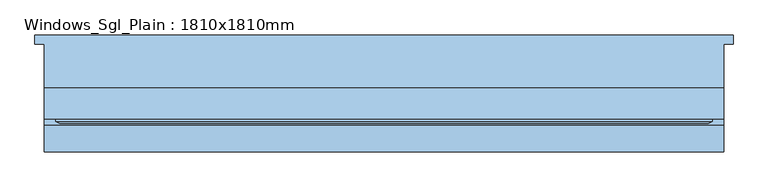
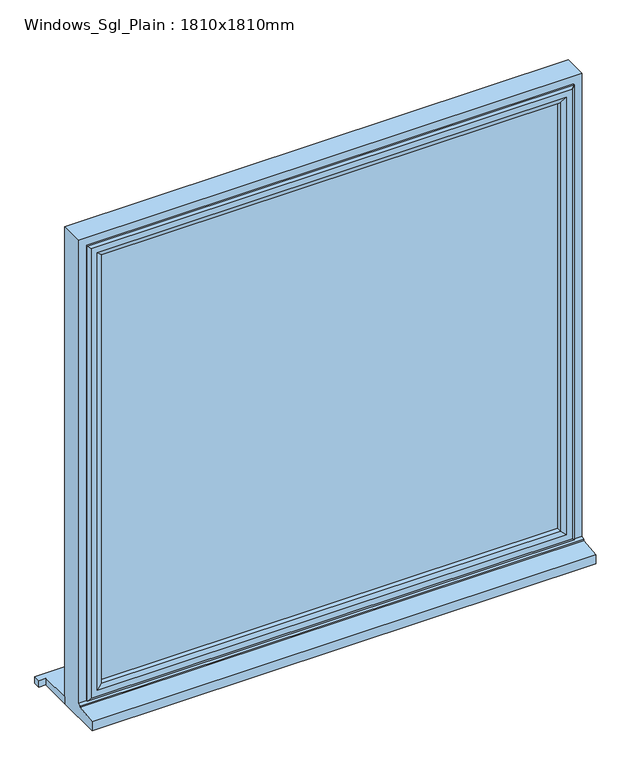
"""IFC4 building model written with IfcOpenShell, lengths in millimetres: window geometry, Windows_Sgl_Plain : 1810x1810mm."""

from ifc_helpers import new_model, si_unit, frame, origin, place, context, project, spatial, polyline, outline, extrude, faceted_brep, source, transform, mapped, element, save


def windows_sgl_plain_1810x1810mm_c88d1166(model_context):
    return source(origin(), model_context, "Body", "SolidModel", [
        extrude(outline(polyline([(-930.0, 141.5434322), (930.0, 141.5434322), (930.0, 116.5434322), (905.0, 116.5434322), (905.0, -0.4565678), (-905.0, -0.4565678), (-905.0, 116.5434322), (-930.0, 116.5434322), (-930.0, 141.5434322)])), frame((0.0, 0.0, 300.0), z_axis=(0.0, 0.0, 1.0), x_axis=(1.0, 0.0, 0.0)), (0.0, 0.0, 1.0), 25.0),
        faceted_brep([(-905.0, -0.4565678, 300.0), (-905.0, -0.4565678, 2110.0), (905.0, -0.4565678, 2110.0), (905.0, -0.4565678, 300.0), (-845.0, -0.4565678, 2050.0), (-845.0, -0.4565678, 375.0), (845.0, -0.4565678, 375.0), (845.0, -0.4565678, 2050.0), (-905.0, -170.9565678, 300.0), (-905.0, -170.9565678, 333.8088847), (-905.0, -98.4565678, 344.7449676), (-905.0, -98.4565678, 349.68767), (-905.0, -83.4565678, 351.0), (-905.0, -83.4565678, 2110.0), (905.0, -83.4565678, 351.0), (905.0, -83.4565678, 2110.0), (-865.0, -83.4565678, 2070.0), (865.0, -83.4565678, 2070.0), (865.0, -83.4565678, 363.0), (-865.0, -83.4565678, 363.0), (-865.0, -18.4565678, 363.0), (-865.0, -18.4565678, 2070.0), (865.0, -18.4565678, 363.0), (865.0, -18.4565678, 2070.0), (-845.0, -18.4565678, 2050.0), (845.0, -18.4565678, 2050.0), (845.0, -18.4565678, 375.0), (-845.0, -18.4565678, 375.0), (905.0, -98.4565678, 349.68767), (905.0, -98.4565678, 344.7449676), (905.0, -170.9565678, 333.8088847), (905.0, -170.9565678, 300.0)], [[[0, 1, 2, 3], [4, 5, 6, 7]], [[0, 8, 9, 10, 11, 12, 13, 1]], [[12, 14, 15, 13], [16, 17, 18, 19]], [[19, 20, 21, 16]], [[21, 20, 22, 23], [24, 25, 26, 27]], [[24, 27, 5, 4]], [[1, 13, 15, 2]], [[16, 21, 23, 17]], [[7, 25, 24, 4]], [[14, 28, 29, 30, 31, 3, 2, 15]], [[17, 23, 22, 18]], [[7, 6, 26, 25]], [[31, 8, 0, 3]], [[30, 9, 8, 31]], [[29, 10, 9, 30]], [[28, 11, 10, 29]], [[14, 12, 11, 28]], [[20, 19, 18, 22]], [[5, 27, 26, 6]]]),
        extrude(outline(polyline([(835.0, -47.4565678), (835.0, -71.4565678), (-835.0, -71.4565678), (-835.0, -47.4565678), (835.0, -47.4565678)])), frame((0.0, 0.0, 393.0), z_axis=(0.0, 0.0, 1.0), x_axis=(1.0, 0.0, 0.0)), (0.0, 0.0, 1.0), 1647.0),
        faceted_brep([(-875.0, -83.4565678, 2080.0), (-875.0, -83.4565678, 353.0), (-875.0, -89.2300705, 353.0), (-875.0, -89.2300705, 2080.0), (-865.0, -18.4565678, 2070.0), (-865.0, -18.4565678, 363.0), (-865.0, -83.4565678, 363.0), (-865.0, -83.4565678, 2070.0), (-825.0, -32.9494677, 2030.0), (-825.0, -32.9494677, 403.0), (-835.1480377, -18.4565678, 392.8519623), (-835.1480377, -18.4565678, 2040.1480377), (-825.0, -47.4565678, 2030.0), (-825.0, -47.4565678, 403.0), (-835.0, -71.4565678, 2040.0), (-835.0, -71.4565678, 393.0), (-835.0, -47.4565678, 393.0), (-835.0, -47.4565678, 2040.0), (-825.0, -89.2300705, 2030.0), (-825.0, -89.2300705, 403.0), (-825.0, -71.4565678, 403.0), (-825.0, -71.4565678, 2030.0), (-842.4457548, -95.0035732, 2047.4457548), (-842.4457548, -95.0035732, 385.5542452), (-864.2153903, -95.0035732, 363.7846097), (-864.2153903, -95.0035732, 2069.2153903), (875.0, -83.4565678, 353.0), (875.0, -89.2300705, 353.0), (865.0, -18.4565678, 363.0), (865.0, -83.4565678, 363.0), (825.0, -32.9494677, 403.0), (835.1480377, -18.4565678, 392.8519623), (825.0, -47.4565678, 403.0), (835.0, -71.4565678, 393.0), (835.0, -47.4565678, 393.0), (825.0, -89.2300705, 403.0), (825.0, -71.4565678, 403.0), (842.4457548, -95.0035732, 385.5542452), (864.2153903, -95.0035732, 363.7846097), (875.0, -83.4565678, 2080.0), (875.0, -89.2300705, 2080.0), (865.0, -18.4565678, 2070.0), (865.0, -83.4565678, 2070.0), (825.0, -32.9494677, 2030.0), (835.1480377, -18.4565678, 2040.1480377), (825.0, -47.4565678, 2030.0), (835.0, -71.4565678, 2040.0), (835.0, -47.4565678, 2040.0), (825.0, -89.2300705, 2030.0), (825.0, -71.4565678, 2030.0), (842.4457548, -95.0035732, 2047.4457548), (864.2153903, -95.0035732, 2069.2153903)], [[[0, 1, 2, 3]], [[4, 5, 6, 7]], [[8, 9, 10, 11]], [[12, 13, 9, 8]], [[14, 15, 16, 17]], [[18, 19, 20, 21]], [[22, 23, 19, 18]], [[3, 2, 24, 25]], [[1, 26, 27, 2]], [[5, 28, 29, 6]], [[9, 30, 31, 10]], [[13, 32, 30, 9]], [[15, 33, 34, 16]], [[19, 35, 36, 20]], [[23, 37, 35, 19]], [[2, 27, 38, 24]], [[26, 39, 40, 27]], [[28, 41, 42, 29]], [[30, 43, 44, 31]], [[32, 45, 43, 30]], [[33, 46, 47, 34]], [[35, 48, 49, 36]], [[37, 50, 48, 35]], [[27, 40, 51, 38]], [[39, 0, 3, 40]], [[1, 0, 39, 26], [7, 6, 29, 42]], [[41, 4, 7, 42]], [[5, 4, 41, 28], [11, 10, 31, 44]], [[43, 8, 11, 44]], [[45, 12, 8, 43]], [[17, 16, 34, 47], [13, 12, 45, 32]], [[46, 14, 17, 47]], [[15, 14, 46, 33], [21, 20, 36, 49]], [[48, 18, 21, 49]], [[50, 22, 18, 48]], [[25, 24, 38, 51], [23, 22, 50, 37]], [[40, 3, 25, 51]]]),
    ])


if __name__ == "__main__":
    model = new_model("IFC4")
    model_context = context("Model", 3, world=origin())
    ifc_project = project(units=[si_unit("LENGTHUNIT", "METRE", prefix="MILLI")], contexts=[model_context])
    site = spatial("IfcSite", under=ifc_project)
    building = spatial("IfcBuilding", under=site)
    placement = place(None, origin())
    windows_sgl_plain_1810x1810mm_shape = windows_sgl_plain_1810x1810mm_c88d1166(model_context)
    element("IfcWindow", 1, ObjectType="Windows_Sgl_Plain : 1810x1810mm", at=placement, inside=building, context=model_context, shape_type="MappedRepresentation", body=[
        mapped(windows_sgl_plain_1810x1810mm_shape, transform((0.0, 0.0, 0.0), x_axis=(1.0, 0.0, 0.0), y_axis=(0.0, 1.0, 0.0), z_axis=(0.0, 0.0, 1.0))),
    ])
    save(model, "model.ifc")
